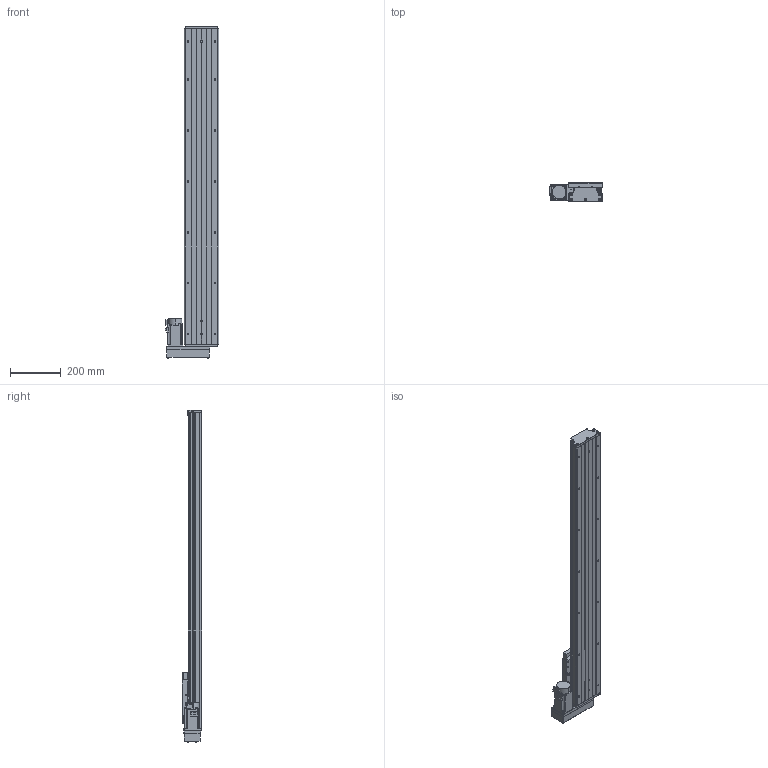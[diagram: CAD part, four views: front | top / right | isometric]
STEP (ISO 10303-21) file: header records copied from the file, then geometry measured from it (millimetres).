
FILE_DESCRIPTION (( 'STEP AP203' ), '1' );
FILE_NAME ('GTH14-1000-BL-M40-C4.step', '2023-06-30T08:37:43', ( '微软用户' ), ( '微软中国' ), 'SwSTEP 2.0', 'SolidWorks 2020', '' );
FILE_SCHEMA (( 'CONFIG_CONTROL_DESIGN' ));
Length unit declared in the file: millimetre
Products named in the file (19): GTH14-004; GBT 70.1-M3℅5; GTH14-015-2_CTHA86-015-2; GTH14-005; GBT77-2000 M3×3; GTH14-033; GB1155-6X6; GTH14-031; GTH14-1000-BL-M40-C4; GBT70.1 M5℅16; GBT 70.2-M3¡Á5_M3¡Á6; CTHA60-017; す晦芛蹟隊 M3℅5; GTH14-001_1000; EE_SX911P_R; HG-KN43J-S100; GTH14-002_GTH14-002; CTHA60-016; GBT 70.2-M4¡Á35_M4¡Á35
Assembly tree (58 placements, depth 2):
  GTH14-1000-BL-M40-C4
    GTH14-001_1000
    GTH14-002_GTH14-002
    GTH14-004
    GTH14-005
    GB1155-6X6  x2
    GBT70.1 M5℅16  x10
    CTHA60-017  x3
    EE_SX911P_R  x3
    CTHA60-016  x2
    GBT 70.1-M3℅5  x6
    GBT77-2000 M3×3  x6
    GTH14-031
    GBT 70.2-M3¡Á5_M3¡Á6  x8
    す晦芛蹟隊 M3℅5  x6
    HG-KN43J-S100
    GBT 70.2-M4¡Á35_M4¡Á35  x4
    GTH14-015-2_CTHA86-015-2
    GTH14-033
Bounding box: 209.3 x 78 x 1304.2 mm (x, y, z)
Volume: 6965183.6 mm3; surface area: 1121619.8 mm2
Topology: 61 solids, 61 shells, 2473 faces, 5881 edges, 3626 vertices
Faces by surface type: plane 1311, cylinder 672, cone 314, torus 124, sphere 32, bspline 20
Entity records: 44774 total; most frequent: CARTESIAN_POINT 9957, DIRECTION 6609, ORIENTED_EDGE 6452, EDGE_CURVE 3226, AXIS2_PLACEMENT_3D 2270, VECTOR 2069, LINE 2069, VERTEX_POINT 2044
